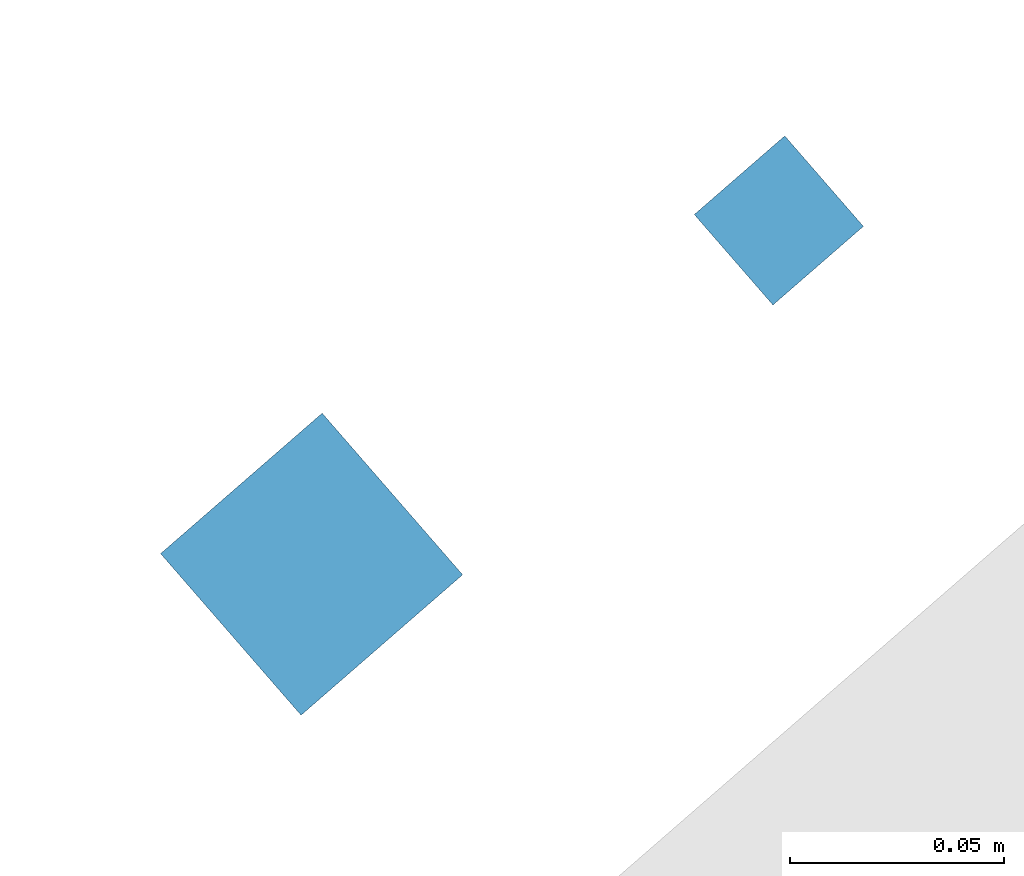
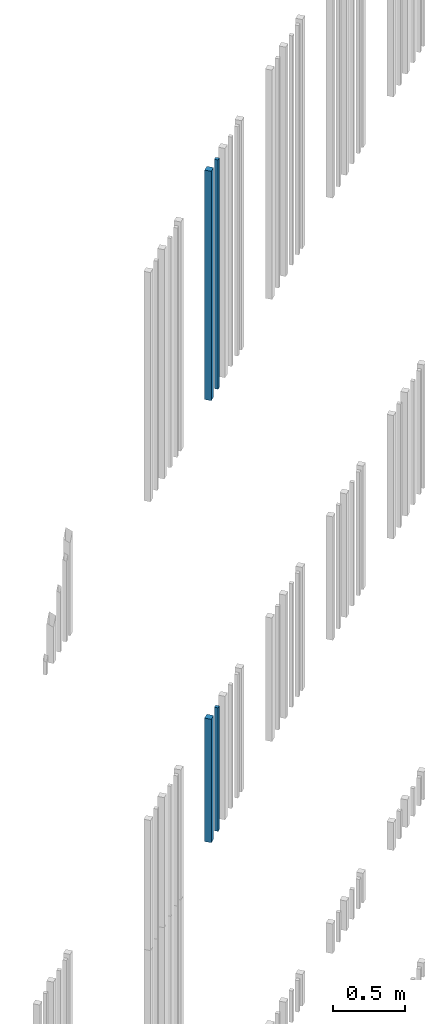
# One storey, part 45 of 124: 4 walls.
"""IFC2X3 building model written with IfcOpenShell, lengths in millimetres."""

from ifc_helpers import new_model, entity, si_unit, converted_unit, derived_unit, money_unit, direction, frame, origin_with_axes, place, context, subcontext, project, spatial, faceted_brep, material, type_object, element, save


model = new_model("IFC2X3")

# Units and contexts
model_context = context("Model", 3, precision=1e-05, world=origin_with_axes(), true_north=direction((0.0, 1.0)))
body_context = subcontext(model_context, "Body", "Model", "MODEL_VIEW")
ifc_project = project(units=[si_unit("LENGTHUNIT", "METRE", prefix="MILLI"), si_unit("AREAUNIT", "SQUARE_METRE"), si_unit("VOLUMEUNIT", "CUBIC_METRE"), converted_unit("PLANEANGLEUNIT", "DEGREE", entity("IfcPlaneAngleMeasure", 0.0174532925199), si_unit("PLANEANGLEUNIT", "RADIAN"), dimensions=[0, 0, 0, 0, 0, 0, 0]), si_unit("SOLIDANGLEUNIT", "STERADIAN"), money_unit("EUR"), converted_unit("TIMEUNIT", "Year", entity("IfcTimeMeasure", 31556926.0), si_unit("TIMEUNIT", "SECOND"), dimensions=[0, 0, 1, 0, 0, 0, 0]), si_unit("MASSUNIT", "GRAM", prefix="KILO"), si_unit("THERMODYNAMICTEMPERATUREUNIT", "DEGREE_CELSIUS"), si_unit("LUMINOUSINTENSITYUNIT", "LUMEN"), si_unit("ENERGYUNIT", "JOULE", prefix="MEGA"), derived_unit("THERMALCONDUCTANCEUNIT", [(si_unit("POWERUNIT", "WATT"), 1), (si_unit("LENGTHUNIT", "METRE"), -1), (si_unit("THERMODYNAMICTEMPERATUREUNIT", "KELVIN"), -1)]), derived_unit("SPECIFICHEATCAPACITYUNIT", [(si_unit("ENERGYUNIT", "JOULE"), 1), (si_unit("MASSUNIT", "GRAM", prefix="KILO"), -1), (si_unit("THERMODYNAMICTEMPERATUREUNIT", "KELVIN"), -1)]), derived_unit("MASSDENSITYUNIT", [(si_unit("MASSUNIT", "GRAM", prefix="KILO"), 1), (si_unit("VOLUMEUNIT", "CUBIC_METRE"), -1)])], contexts=[model_context])

# Site, building, storey
site_placement = place(None, origin_with_axes())
site = spatial("IfcSite", under=ifc_project, at=site_placement, Name="Site", CompositionType="ELEMENT")
building_placement = place(site_placement, origin_with_axes())
building = spatial("IfcBuilding", under=site, at=building_placement, Name="Building", CompositionType="ELEMENT")
storey_placement = place(building_placement, frame((0.0, 0.0, -1615.0), z_axis=(0.0, 0.0, 1.0), x_axis=(1.0, 0.0, 0.0)))
storey = spatial("IfcBuildingStorey", under=building, at=storey_placement, Name="0  korrus", CompositionType="ELEMENT", Elevation=-1615.0)

# Walls
ifc_material = material(Name="Site specified")
wall_type = type_object("IfcWallType", Name="Puitfassaadi ribistik", PredefinedType="NOTDEFINED")
wall_1_placement = place(storey_placement, frame((138616.528037, 90519.3501086, 5771.0), z_axis=(0.0, 0.0, 1.0), x_axis=(0.754709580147, 0.656059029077, 0.0)))
element("IfcWall", 1, at=wall_1_placement, inside=storey, type_object=wall_type, material=ifc_material, Name="Site specified", context=body_context, shape_type="Brep", body=[
    faceted_brep([(14.0, 14.0, 1050.0), (14.0, 14.0, 0.0), (-14.0, 14.0, 0.0), (-14.0, 14.0, 1050.0), (14.0, -14.0, 1050.0), (14.0, -14.0, 0.0), (-14.0, -14.0, 0.0), (-14.0, -14.0, 1050.0)], [[[0, 1, 2, 3]], [[4, 5, 1, 0]], [[2, 1, 5, 6]], [[3, 2, 6, 7]], [[4, 0, 3, 7]], [[7, 6, 5, 4]]]),
])
wall_2_placement = place(storey_placement, frame((138507.423715, 90439.0823112, 9530.0), z_axis=(0.0, 0.0, 1.0), x_axis=(0.754709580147, 0.656059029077, 0.0)))
element("IfcWall", 2, at=wall_2_placement, inside=storey, type_object=wall_type, material=ifc_material, Name="Site specified", context=body_context, shape_type="Brep", body=[
    faceted_brep([(25.0, 25.0, 1950.0), (25.0, 25.0, 0.0), (-25.0, 25.0, 0.0), (-25.0, 25.0, 1950.0), (25.0, -25.0, 1950.0), (25.0, -25.0, 0.0), (-25.0, -25.0, 0.0), (-25.0, -25.0, 1950.0)], [[[0, 1, 2, 3]], [[4, 5, 1, 0]], [[2, 1, 5, 6]], [[3, 2, 6, 7]], [[4, 0, 3, 7]], [[7, 6, 5, 4]]]),
])
wall_3_placement = place(storey_placement, frame((138507.423715, 90439.0823112, 5771.0), z_axis=(0.0, 0.0, 1.0), x_axis=(0.754709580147, 0.656059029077, 0.0)))
element("IfcWall", 3, at=wall_3_placement, inside=storey, type_object=wall_type, material=ifc_material, Name="Site specified", context=body_context, shape_type="Brep", body=[
    faceted_brep([(25.0, 25.0, 1050.0), (25.0, 25.0, 0.0), (-25.0, 25.0, 0.0), (-25.0, 25.0, 1050.0), (25.0, -25.0, 1050.0), (25.0, -25.0, 0.0), (-25.0, -25.0, 0.0), (-25.0, -25.0, 1050.0)], [[[0, 1, 2, 3]], [[4, 5, 1, 0]], [[2, 1, 5, 6]], [[3, 2, 6, 7]], [[4, 0, 3, 7]], [[7, 6, 5, 4]]]),
])
wall_4_placement = place(storey_placement, frame((138616.528037, 90519.3501086, 9530.0), z_axis=(0.0, 0.0, 1.0), x_axis=(0.754709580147, 0.656059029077, 0.0)))
element("IfcWall", 4, at=wall_4_placement, inside=storey, type_object=wall_type, material=ifc_material, Name="Site specified", context=body_context, shape_type="Brep", body=[
    faceted_brep([(14.0, 14.0, 1950.0), (14.0, 14.0, 0.0), (-14.0, 14.0, 0.0), (-14.0, 14.0, 1950.0), (14.0, -14.0, 1950.0), (14.0, -14.0, 0.0), (-14.0, -14.0, 0.0), (-14.0, -14.0, 1950.0)], [[[0, 1, 2, 3]], [[4, 5, 1, 0]], [[2, 1, 5, 6]], [[3, 2, 6, 7]], [[4, 0, 3, 7]], [[7, 6, 5, 4]]]),
])

save(model, "model.ifc")
